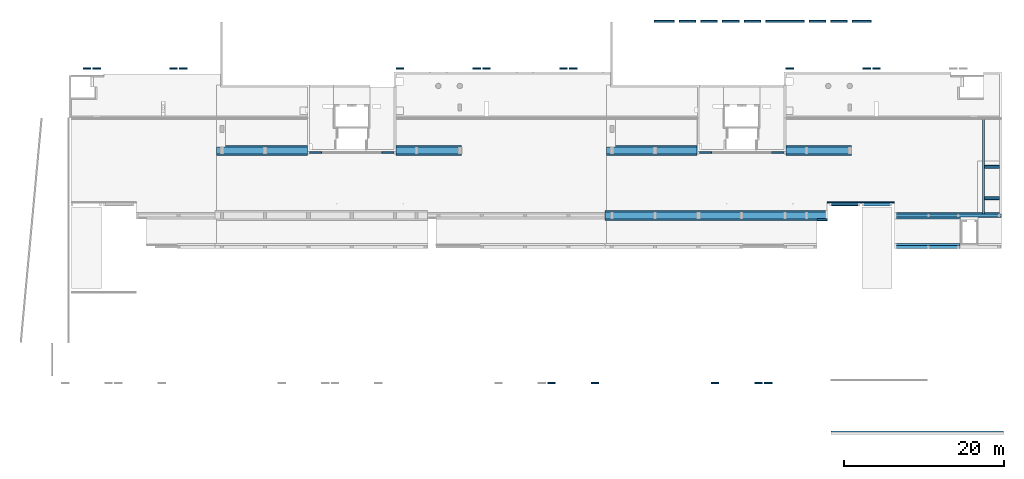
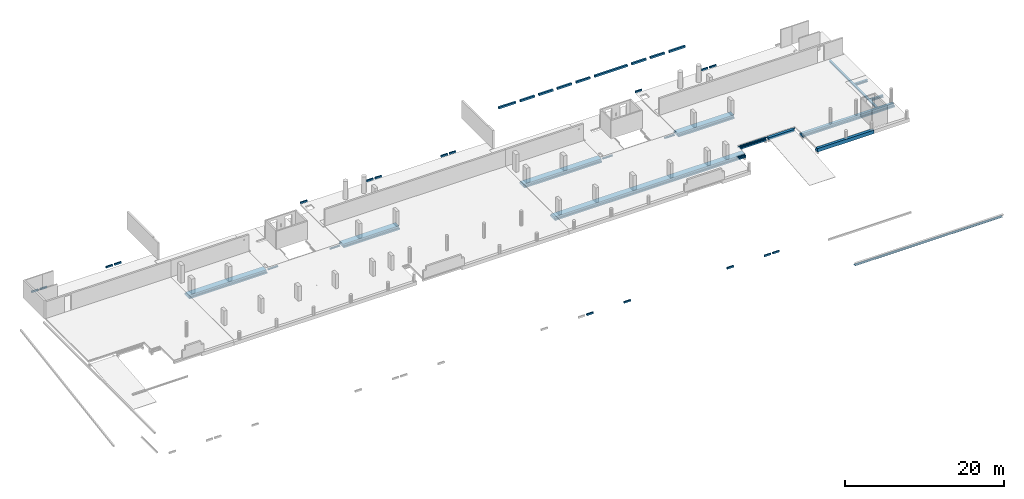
# One storey, part 2 of 10: 39 beams.
"""IFC2X3 building model written with IfcOpenShell, lengths in millimetres."""

from ifc_helpers import new_model, entity, si_unit, converted_unit, derived_unit, direction, frame, frame_2d, origin, origin_2d_with_axis, place, context, subcontext, project, spatial, polyline, circle_curve, parameter, trimmed, segment, composite_curve, rectangle, i_section, outline, extrude, source, transform, mapped, material, type_object, type_shapes, element, save


model = new_model("IFC2X3")

# Units and contexts
model_context = context("Model", 3, precision=0.01, world=origin(), true_north=direction((6.12303176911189e-17, 1.0)))
body_context = subcontext(model_context, "Body", "Model", "MODEL_VIEW")
ifc_project = project(units=[si_unit("LENGTHUNIT", "METRE", prefix="MILLI"), si_unit("AREAUNIT", "SQUARE_METRE"), si_unit("VOLUMEUNIT", "CUBIC_METRE"), converted_unit("PLANEANGLEUNIT", "DEGREE", entity("IfcRatioMeasure", 0.0174532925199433), si_unit("PLANEANGLEUNIT", "RADIAN"), dimensions=[0, 0, 0, 0, 0, 0, 0]), si_unit("MASSUNIT", "GRAM", prefix="KILO"), derived_unit("MASSDENSITYUNIT", [(si_unit("MASSUNIT", "GRAM", prefix="KILO"), 1), (si_unit("LENGTHUNIT", "METRE"), -3)]), si_unit("TIMEUNIT", "SECOND"), si_unit("FREQUENCYUNIT", "HERTZ"), si_unit("THERMODYNAMICTEMPERATUREUNIT", "DEGREE_CELSIUS"), derived_unit("THERMALTRANSMITTANCEUNIT", [(si_unit("MASSUNIT", "GRAM", prefix="KILO"), 1), (si_unit("THERMODYNAMICTEMPERATUREUNIT", "KELVIN"), -1), (si_unit("TIMEUNIT", "SECOND"), -3)]), derived_unit("VOLUMETRICFLOWRATEUNIT", [(si_unit("LENGTHUNIT", "METRE"), 3), (si_unit("TIMEUNIT", "SECOND"), -1)]), si_unit("ELECTRICCURRENTUNIT", "AMPERE"), si_unit("ELECTRICVOLTAGEUNIT", "VOLT"), si_unit("POWERUNIT", "WATT"), si_unit("FORCEUNIT", "NEWTON", prefix="KILO"), si_unit("ILLUMINANCEUNIT", "LUX"), si_unit("LUMINOUSFLUXUNIT", "LUMEN"), si_unit("LUMINOUSINTENSITYUNIT", "CANDELA"), derived_unit("USERDEFINED", [(si_unit("MASSUNIT", "GRAM", prefix="KILO"), -1), (si_unit("LENGTHUNIT", "METRE"), -2), (si_unit("TIMEUNIT", "SECOND"), 3), (si_unit("LUMINOUSFLUXUNIT", "LUMEN"), 1)]), derived_unit("LINEARVELOCITYUNIT", [(si_unit("LENGTHUNIT", "METRE"), 1), (si_unit("TIMEUNIT", "SECOND"), -1)]), si_unit("PRESSUREUNIT", "PASCAL"), derived_unit("USERDEFINED", [(si_unit("LENGTHUNIT", "METRE"), -2), (si_unit("MASSUNIT", "GRAM", prefix="KILO"), 1), (si_unit("TIMEUNIT", "SECOND"), -2)])], contexts=[model_context])

# Site, building, storey
site_placement = place(None, origin())
site = spatial("IfcSite", under=ifc_project, at=site_placement, Name="Default", CompositionType="ELEMENT")
building_placement = place(site_placement, origin())
building = spatial("IfcBuilding", under=site, at=building_placement, Name="niet gebruiken", CompositionType="ELEMENT")
storey_placement = place(building_placement, frame((0.0, 0.0, 6610.0)))
storey = spatial("IfcBuildingStorey", under=building, at=storey_placement, Name="01c derde tussenverdieping", CompositionType="ELEMENT", Elevation=6610.0)

# Beams
ifc_material_1 = material(Name="NLRS_f2_beton prefab")
beam_type_1 = type_object("IfcBeamType", Name="NLRS_28.11_SF_WPB_prefabbeton balk enkele sponning_gen:600x540/200x200", PredefinedType="BEAM")
beam_1_placement = place(storey_placement, frame((110845.0, 25076.0, 10.0)))
element("IfcBeam", 1, at=beam_1_placement, inside=storey, type_object=beam_type_1, material=ifc_material_1, Name="NLRS_28.11_SF_WPB_prefabbeton balk enkele sponning_gen:600x540/200x200", ObjectType="NLRS_28.11_SF_WPB_prefabbeton balk enkele sponning_gen:600x540/200x200", context=body_context, shape_type="SweptSolid", body=[
    extrude(outline(polyline([(-293.333333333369, -333.333333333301), (246.666666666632, -333.333333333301), (246.666666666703, 266.666666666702), (46.6666666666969, 266.666666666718), (46.6666666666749, 66.6666666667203), (-293.333333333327, 66.6666666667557), (-293.333333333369, -333.333333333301)])), frame((0.0, 33.3333333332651, -293.333333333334), z_axis=(1.0, 0.0, 0.0), x_axis=(0.0, 0.0, -1.0)), (0.0, 0.0, 1.0), 8155.0000000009),
])
beam_type_2 = type_object("IfcBeamType", Name="NLRS_28.11_SF_WPB_prefabbeton balk dubbele sponning_gen:800x460/200x260/200x260", PredefinedType="BEAM")
beam_2_placement = place(storey_placement, frame((110845.0, 28881.0, -70.0)))
element("IfcBeam", 2, at=beam_2_placement, inside=storey, type_object=beam_type_2, material=ifc_material_1, Name="NLRS_28.11_SF_WPB_prefabbeton balk dubbele sponning_gen:800x460/200x260/200x260", ObjectType="NLRS_28.11_SF_WPB_prefabbeton balk dubbele sponning_gen:800x460/200x260/200x260", context=body_context, shape_type="SweptSolid", body=[
    extrude(outline(polyline([(15.0, -400.0), (215.0, -400.0), (215.0, 400.0), (15.0, 400.0), (15.0, 200.0), (-245.0, 200.0), (-245.0, -200.0), (15.0, -200.0), (15.0, -400.0)])), frame((0.0, 0.0, -245.0), z_axis=(1.0, 0.0, 0.0), x_axis=(0.0, 0.0, -1.0)), (0.0, 0.0, 1.0), 13354.999999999),
])
beam_type_3 = type_object("IfcBeamType", Name="NLRS_28.11_SF_WPB_prefabbeton balk dubbele sponning_gen:1250x460/200x260/200x260", PredefinedType="BEAM")
beam_3_placement = place(storey_placement, frame((74750.0, 28881.0, -70.0)))
element("IfcBeam", 3, at=beam_3_placement, inside=storey, type_object=beam_type_3, material=ifc_material_1, Name="NLRS_28.11_SF_WPB_prefabbeton balk dubbele sponning_gen:1250x460/200x260/200x260", ObjectType="NLRS_28.11_SF_WPB_prefabbeton balk dubbele sponning_gen:1250x460/200x260/200x260", context=body_context, shape_type="SweptSolid", body=[
    extrude(outline(polyline([(15.0, -625.0), (215.0, -625.0), (215.0, 625.0), (15.0, 625.0), (15.0, 425.0), (-245.0, 425.0), (-245.0, -425.0), (15.0, -425.0), (15.0, -625.0)])), frame((0.0, 0.0, -245.0), z_axis=(1.0, 0.0, 0.0), x_axis=(0.0, 0.0, -1.0)), (0.0, 0.0, 1.0), 27705.0000000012),
])
beam_4_placement = place(storey_placement, frame((97345.0, 36981.0, -70.0)))
element("IfcBeam", 4, at=beam_4_placement, inside=storey, type_object=beam_type_3, material=ifc_material_1, Name="NLRS_28.11_SF_WPB_prefabbeton balk dubbele sponning_gen:1250x460/200x260/200x260", ObjectType="NLRS_28.11_SF_WPB_prefabbeton balk dubbele sponning_gen:1250x460/200x260/200x260", context=body_context, shape_type="SweptSolid", body=[
    extrude(outline(polyline([(15.0, -625.0), (215.0, -625.0), (215.0, 625.0), (15.0, 625.0), (15.0, 425.0), (-245.0, 425.0), (-245.0, -425.0), (15.0, -425.0), (15.0, -625.0)])), frame((0.0, 0.0, -245.0), z_axis=(1.0, 0.0, 0.0), x_axis=(0.0, 0.0, -1.0)), (0.0, 0.0, 1.0), 8155.00000000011),
])
beam_5_placement = place(storey_placement, frame((74970.0, 36981.0, -70.0)))
element("IfcBeam", 5, at=beam_5_placement, inside=storey, type_object=beam_type_3, material=ifc_material_1, Name="NLRS_28.11_SF_WPB_prefabbeton balk dubbele sponning_gen:1250x460/200x260/200x260", ObjectType="NLRS_28.11_SF_WPB_prefabbeton balk dubbele sponning_gen:1250x460/200x260/200x260", context=body_context, shape_type="SweptSolid", body=[
    extrude(outline(polyline([(15.0, -625.0), (215.0, -625.0), (215.0, 625.0), (15.0, 625.0), (15.0, 425.0), (-245.0, 425.0), (-245.0, -425.0), (15.0, -425.0), (15.0, -625.0)])), frame((0.0, 0.0, -245.0), z_axis=(1.0, 0.0, 0.0), x_axis=(0.0, 0.0, -1.0)), (0.0, 0.0, 1.0), 11284.9999999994),
])
beam_6_placement = place(storey_placement, frame((48745.0, 36981.0, -70.0)))
element("IfcBeam", 6, at=beam_6_placement, inside=storey, type_object=beam_type_3, material=ifc_material_1, Name="NLRS_28.11_SF_WPB_prefabbeton balk dubbele sponning_gen:1250x460/200x260/200x260", ObjectType="NLRS_28.11_SF_WPB_prefabbeton balk dubbele sponning_gen:1250x460/200x260/200x260", context=body_context, shape_type="SweptSolid", body=[
    extrude(outline(polyline([(15.0, -625.0), (215.0, -625.0), (215.0, 625.0), (15.0, 625.0), (15.0, 425.0), (-245.0, 425.0), (-245.0, -425.0), (15.0, -425.0), (15.0, -625.0)])), frame((0.0, 0.0, -245.0), z_axis=(1.0, 0.0, 0.0), x_axis=(0.0, 0.0, -1.0)), (0.0, 0.0, 1.0), 8155.0000000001),
])
beam_7_placement = place(storey_placement, frame((26370.0, 36981.0, -70.0)))
element("IfcBeam", 7, at=beam_7_placement, inside=storey, type_object=beam_type_3, material=ifc_material_1, Name="NLRS_28.11_SF_WPB_prefabbeton balk dubbele sponning_gen:1250x460/200x260/200x260", ObjectType="NLRS_28.11_SF_WPB_prefabbeton balk dubbele sponning_gen:1250x460/200x260/200x260", context=body_context, shape_type="SweptSolid", body=[
    extrude(outline(polyline([(15.0, -625.0), (215.0, -625.0), (215.0, 625.0), (15.0, 625.0), (15.0, 425.0), (-245.0, 425.0), (-245.0, -425.0), (15.0, -425.0), (15.0, -625.0)])), frame((0.0, 0.0, -245.0), z_axis=(1.0, 0.0, 0.0), x_axis=(0.0, 0.0, -1.0)), (0.0, 0.0, 1.0), 11284.9999999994),
])
ifc_material_2 = material(Name="NLRS_f2_beton ihwg")
beam_type_4 = type_object("IfcBeamType", Name="250x280", PredefinedType="BEAM", material=ifc_material_2)
shared_shape_1 = source(origin(), body_context, "Body", "SweptSolid", [
    extrude(rectangle(XDim=2489.99999999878, YDim=250.000000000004, at=frame_2d((278.333333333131, 0.0), x_axis=(1.0, 0.0))), frame((81866.6666666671, 53131.0, 6040.0)), (0.0, 0.0, 1.0), 279.999999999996),
    extrude(rectangle(XDim=2370.00000000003, YDim=250.000000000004, at=frame_2d((298.333333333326, -2.20339302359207e-11), x_axis=(1.0, 0.0))), frame((107093.333333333, 53131.0, 6040.0), z_axis=(0.0, 0.0, 1.0), x_axis=(-1.0, 0.0, 0.0)), (0.0, 0.0, 1.0), 279.999999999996),
    extrude(rectangle(XDim=2080.0, YDim=250.000000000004, at=frame_2d((-1.72803993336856e-11, 4.33431068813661e-12), x_axis=(1.0, 0.0))), frame((101250.0, 53131.0, 6040.0), z_axis=(0.0, 0.0, 1.0), x_axis=(-1.0, 0.0, 0.0)), (0.0, 0.0, 1.0), 279.999999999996),
    extrude(rectangle(XDim=2080.00000000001, YDim=250.000000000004, at=origin_2d_with_axis()), frame((103950.0, 53131.0, 6040.0)), (0.0, 0.0, 1.0), 279.999999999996),
    extrude(rectangle(XDim=4779.99999999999, YDim=249.999999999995, at=frame_2d((1.05683284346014e-09, -1.29887212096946e-11), x_axis=(1.0, 0.0))), frame((97200.0, 53131.0, 6040.0), z_axis=(0.0, 0.0, 1.0), x_axis=(-1.0, 0.0, 0.0)), (0.0, 0.0, 1.0), 279.999999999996),
    extrude(rectangle(XDim=2080.00000000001, YDim=250.000000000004, at=frame_2d((0.0, -4.33431068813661e-12), x_axis=(1.0, 0.0))), frame((93150.0, 53131.0, 6040.0), z_axis=(0.0, 0.0, 1.0), x_axis=(-1.0, 0.0, 0.0)), (0.0, 0.0, 1.0), 279.999999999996),
    extrude(rectangle(XDim=2079.99999999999, YDim=249.999999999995, at=frame_2d((8.75388650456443e-12, 8.66862137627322e-12), x_axis=(1.0, 0.0))), frame((90450.0, 53131.0, 6040.0), z_axis=(0.0, 0.0, 1.0), x_axis=(-1.0, 0.0, 0.0)), (0.0, 0.0, 1.0), 279.999999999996),
    extrude(rectangle(XDim=2080.00000000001, YDim=249.999999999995, at=frame_2d((0.0, 8.66862137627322e-12), x_axis=(1.0, 0.0))), frame((87750.0, 53131.0, 6040.0), z_axis=(0.0, 0.0, 1.0), x_axis=(-1.0, 0.0, 0.0)), (0.0, 0.0, 1.0), 279.999999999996),
    extrude(rectangle(XDim=2080.0, YDim=250.000000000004, at=frame_2d((-8.64019966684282e-12, 4.33431068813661e-12), x_axis=(1.0, 0.0))), frame((85050.0, 53131.0, 6040.0), z_axis=(0.0, 0.0, 1.0), x_axis=(-1.0, 0.0, 0.0)), (0.0, 0.0, 1.0), 279.999999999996),
])
type_shapes(beam_type_4, [shared_shape_1])
beam_8_placement = place(storey_placement, frame((0.0, 0.0, -6610.0)))
element("IfcBeam", 8, at=beam_8_placement, inside=storey, type_object=beam_type_4, material=ifc_material_2, Name="NLRS_28.11_SF_WPB_betonbalk ihwg recht_gen:250x280", ObjectType="250x280", context=body_context, shape_type="MappedRepresentation", body=[
    mapped(shared_shape_1, transform((0.0, 0.0, 0.0), scale=1.0)),
])
ifc_material_3 = material(Name="NLRS_h2_staal")
beam_type_5 = type_object("IfcBeamType", Name="NLRS_28.11_SF_WPB_stalen ligger hoekprofiel gelijkzijdig_gen:ligger gelijzijdig hoekprofiel LEQU_200x200x15", PredefinedType="BEAM")
beam_9_placement = place(storey_placement, frame((46945.0, 36756.0, -245.0)))
element("IfcBeam", 9, at=beam_9_placement, inside=storey, type_object=beam_type_5, material=ifc_material_3, Name="NLRS_28.11_SF_WPB_stalen ligger hoekprofiel gelijkzijdig_gen:ligger gelijzijdig hoekprofiel LEQU_200x200x15", ObjectType="NLRS_28.11_SF_WPB_stalen ligger hoekprofiel gelijkzijdig_gen:ligger gelijzijdig hoekprofiel LEQU_200x200x15", context=body_context, shape_type="SweptSolid", body=[
    extrude(outline(composite_curve([segment(polyline([(66.3333333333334, -126.666666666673), (73.333333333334, -126.666666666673)]), True, "CONTINUOUS"), segment(polyline([(73.333333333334, -126.666666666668), (73.333333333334, 73.3333333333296)]), True, "CONTINUOUS"), segment(polyline([(73.333333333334, 73.3333333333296), (-126.666666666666, 73.3333333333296)]), True, "CONTINUOUS"), segment(polyline([(-126.666666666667, 73.3333333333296), (-126.666666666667, 66.3333333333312)]), True, "CONTINUOUS"), segment(trimmed(circle_curve(frame_2d((-118.666666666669, 66.3333333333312), x_axis=(-1.0, 0.0)), 7.99999999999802), [parameter(0.0)], [parameter(90.0000000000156)], True, "PARAMETER"), True, "CONTINUOUS"), segment(polyline([(-118.666666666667, 58.3333333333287), (42.3333333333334, 58.3333333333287)]), True, "CONTINUOUS"), segment(trimmed(circle_curve(frame_2d((42.3333333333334, 42.333333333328), x_axis=(0.0, 1.0)), 16.0000000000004), [parameter(270.0)], [parameter(0.0)], True, "PARAMETER"), False, "CONTINUOUS"), segment(polyline([(58.3333333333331, 42.333333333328), (58.3333333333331, -118.66666666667)]), True, "CONTINUOUS"), segment(trimmed(circle_curve(frame_2d((66.3333333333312, -118.66666666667), x_axis=(-1.0, 0.0)), 7.99999999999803), [parameter(0.0)], [parameter(90.0000000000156)], True, "PARAMETER"), True, "CONTINUOUS")], self_intersect=False)), frame((0.0, 26.6666666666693, -26.6666666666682), z_axis=(1.0, 0.0, 0.0), x_axis=(0.0, 0.0, -1.0)), (0.0, 0.0, 1.0), 1510.00000000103),
])
beam_10_placement = place(storey_placement, frame((37945.0, 36756.0, -245.0)))
element("IfcBeam", 10, at=beam_10_placement, inside=storey, type_object=beam_type_5, material=ifc_material_3, Name="NLRS_28.11_SF_WPB_stalen ligger hoekprofiel gelijkzijdig_gen:ligger gelijzijdig hoekprofiel LEQU_200x200x15", ObjectType="NLRS_28.11_SF_WPB_stalen ligger hoekprofiel gelijkzijdig_gen:ligger gelijzijdig hoekprofiel LEQU_200x200x15", context=body_context, shape_type="SweptSolid", body=[
    extrude(outline(composite_curve([segment(polyline([(66.3333333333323, -126.666666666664), (73.3333333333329, -126.666666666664)]), True, "CONTINUOUS"), segment(polyline([(73.3333333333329, -126.66666666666), (73.3333333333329, 73.3333333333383)]), True, "CONTINUOUS"), segment(polyline([(73.3333333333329, 73.3333333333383), (-126.666666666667, 73.3333333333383)]), True, "CONTINUOUS"), segment(polyline([(-126.666666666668, 73.3333333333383), (-126.666666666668, 66.3333333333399)]), True, "CONTINUOUS"), segment(trimmed(circle_curve(frame_2d((-118.66666666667, 66.3333333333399), x_axis=(-1.0, 0.0)), 7.99999999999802), [parameter(0.0)], [parameter(90.0000000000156)], True, "PARAMETER"), True, "CONTINUOUS"), segment(polyline([(-118.666666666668, 58.3333333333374), (42.3333333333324, 58.3333333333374)]), True, "CONTINUOUS"), segment(trimmed(circle_curve(frame_2d((42.3333333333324, 42.3333333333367), x_axis=(0.0, 1.0)), 16.0000000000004), [parameter(270.0)], [parameter(0.0)], True, "PARAMETER"), False, "CONTINUOUS"), segment(polyline([(58.333333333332, 42.3333333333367), (58.333333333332, -118.666666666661)]), True, "CONTINUOUS"), segment(trimmed(circle_curve(frame_2d((66.3333333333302, -118.666666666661), x_axis=(-1.0, 0.0)), 7.99999999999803), [parameter(0.0)], [parameter(90.0000000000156)], True, "PARAMETER"), True, "CONTINUOUS")], self_intersect=False)), frame((0.0, 26.6666666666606, -26.6666666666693), z_axis=(1.0, 0.0, 0.0), x_axis=(0.0, 0.0, -1.0)), (0.0, 0.0, 1.0), 1510.01813337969),
])
beam_11_placement = place(storey_placement, frame((95545.0, 36756.0, -245.0)))
element("IfcBeam", 11, at=beam_11_placement, inside=storey, type_object=beam_type_5, material=ifc_material_3, Name="NLRS_28.11_SF_WPB_stalen ligger hoekprofiel gelijkzijdig_gen:ligger gelijzijdig hoekprofiel LEQU_200x200x15", ObjectType="NLRS_28.11_SF_WPB_stalen ligger hoekprofiel gelijkzijdig_gen:ligger gelijzijdig hoekprofiel LEQU_200x200x15", context=body_context, shape_type="SweptSolid", body=[
    extrude(outline(composite_curve([segment(polyline([(66.3333333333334, -126.666666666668), (73.333333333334, -126.666666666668)]), True, "CONTINUOUS"), segment(polyline([(73.333333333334, -126.666666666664), (73.333333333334, 73.333333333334)]), True, "CONTINUOUS"), segment(polyline([(73.333333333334, 73.333333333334), (-126.666666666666, 73.333333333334)]), True, "CONTINUOUS"), segment(polyline([(-126.666666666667, 73.333333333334), (-126.666666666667, 66.3333333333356)]), True, "CONTINUOUS"), segment(trimmed(circle_curve(frame_2d((-118.666666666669, 66.3333333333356), x_axis=(-1.0, 0.0)), 7.99999999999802), [parameter(0.0)], [parameter(90.0000000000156)], True, "PARAMETER"), True, "CONTINUOUS"), segment(polyline([(-118.666666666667, 58.3333333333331), (42.3333333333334, 58.3333333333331)]), True, "CONTINUOUS"), segment(trimmed(circle_curve(frame_2d((42.3333333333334, 42.3333333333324), x_axis=(0.0, 1.0)), 16.0000000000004), [parameter(270.0)], [parameter(0.0)], True, "PARAMETER"), False, "CONTINUOUS"), segment(polyline([(58.3333333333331, 42.3333333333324), (58.3333333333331, -118.666666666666)]), True, "CONTINUOUS"), segment(trimmed(circle_curve(frame_2d((66.3333333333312, -118.666666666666), x_axis=(-1.0, 0.0)), 7.99999999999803), [parameter(0.0)], [parameter(90.0000000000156)], True, "PARAMETER"), True, "CONTINUOUS")], self_intersect=False)), frame((0.0, 26.6666666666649, -26.6666666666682), z_axis=(1.0, 0.0, 0.0), x_axis=(0.0, 0.0, -1.0)), (0.0, 0.0, 1.0), 1510.00000000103),
])
beam_12_placement = place(storey_placement, frame((86545.0, 36756.0, -245.0)))
element("IfcBeam", 12, at=beam_12_placement, inside=storey, type_object=beam_type_5, material=ifc_material_3, Name="NLRS_28.11_SF_WPB_stalen ligger hoekprofiel gelijkzijdig_gen:ligger gelijzijdig hoekprofiel LEQU_200x200x15", ObjectType="NLRS_28.11_SF_WPB_stalen ligger hoekprofiel gelijkzijdig_gen:ligger gelijzijdig hoekprofiel LEQU_200x200x15", context=body_context, shape_type="SweptSolid", body=[
    extrude(outline(composite_curve([segment(polyline([(66.3333333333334, -126.66666666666), (73.333333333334, -126.66666666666)]), True, "CONTINUOUS"), segment(polyline([(73.333333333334, -126.666666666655), (73.333333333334, 73.3333333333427)]), True, "CONTINUOUS"), segment(polyline([(73.333333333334, 73.3333333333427), (-126.666666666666, 73.3333333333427)]), True, "CONTINUOUS"), segment(polyline([(-126.666666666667, 73.3333333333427), (-126.666666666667, 66.3333333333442)]), True, "CONTINUOUS"), segment(trimmed(circle_curve(frame_2d((-118.666666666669, 66.3333333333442), x_axis=(-1.0, 0.0)), 7.99999999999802), [parameter(0.0)], [parameter(90.0000000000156)], True, "PARAMETER"), True, "CONTINUOUS"), segment(polyline([(-118.666666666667, 58.3333333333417), (42.3333333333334, 58.3333333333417)]), True, "CONTINUOUS"), segment(trimmed(circle_curve(frame_2d((42.3333333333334, 42.333333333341), x_axis=(0.0, 1.0)), 16.0000000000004), [parameter(270.0)], [parameter(0.0)], True, "PARAMETER"), False, "CONTINUOUS"), segment(polyline([(58.3333333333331, 42.333333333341), (58.3333333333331, -118.666666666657)]), True, "CONTINUOUS"), segment(trimmed(circle_curve(frame_2d((66.3333333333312, -118.666666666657), x_axis=(-1.0, 0.0)), 7.99999999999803), [parameter(0.0)], [parameter(90.0000000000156)], True, "PARAMETER"), True, "CONTINUOUS")], self_intersect=False)), frame((0.0, 26.6666666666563, -26.6666666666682), z_axis=(1.0, 0.0, 0.0), x_axis=(0.0, 0.0, -1.0)), (0.0, 0.0, 1.0), 1510.0181333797),
])
beam_13_placement = place(storey_placement, frame((102475.0, 30626.0, -252.500000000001)))
element("IfcBeam", 13, at=beam_13_placement, inside=storey, type_object=beam_type_5, material=ifc_material_3, Name="NLRS_28.11_SF_WPB_stalen ligger hoekprofiel gelijkzijdig_gen:ligger gelijzijdig hoekprofiel LEQU_200x200x15", ObjectType="NLRS_28.11_SF_WPB_stalen ligger hoekprofiel gelijkzijdig_gen:ligger gelijzijdig hoekprofiel LEQU_200x200x15", context=body_context, shape_type="SweptSolid", body=[
    extrude(outline(composite_curve([segment(polyline([(-126.666666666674, -73.3333333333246), (73.333333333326, -73.3333333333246)]), True, "CONTINUOUS"), segment(polyline([(73.333333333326, -73.3333333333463), (73.3333333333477, 126.666666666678)]), True, "CONTINUOUS"), segment(polyline([(73.3333333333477, 126.666666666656), (66.3333333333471, 126.666666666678)]), True, "CONTINUOUS"), segment(trimmed(circle_curve(frame_2d((66.3333333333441, 118.666666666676), x_axis=(0.0, 1.0)), 7.99999999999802), [parameter(0.0)], [parameter(90.0000000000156)], True, "PARAMETER"), True, "CONTINUOUS"), segment(polyline([(58.3333333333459, 118.666666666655), (58.3333333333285, -42.3333333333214)]), True, "CONTINUOUS"), segment(trimmed(circle_curve(frame_2d((42.3333333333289, -42.3333333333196), x_axis=(1.0, 0.0)), 16.0000000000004), [parameter(270.0)], [parameter(0.0)], True, "PARAMETER"), False, "CONTINUOUS"), segment(polyline([(42.3333333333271, -58.333333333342), (-118.666666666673, -58.3333333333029)]), True, "CONTINUOUS"), segment(trimmed(circle_curve(frame_2d((-118.666666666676, -66.3333333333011), x_axis=(0.0, 1.0)), 7.99999999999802), [parameter(0.0)], [parameter(90.0000000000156)], True, "PARAMETER"), True, "CONTINUOUS"), segment(polyline([(-126.666666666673, -66.3333333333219), (-126.666666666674, -73.3333333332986)]), True, "CONTINUOUS")], self_intersect=False)), frame((0.0, -126.666666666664, -19.1666666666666), z_axis=(1.0, 0.0, 0.0), x_axis=(0.0, 0.0, -1.0)), (0.0, 0.0, 1.0), 8349.99999999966),
])
beam_type_6 = type_object("IfcBeamType", Name="NLRS_28.11_SF_WPB_betonbalk ihwg recht_gen:180x250", PredefinedType="BEAM")
for number, where, name in (
    (14, (59525.0, 47236.0, -40.0), "NLRS_28.11_SF_WPB_betonbalk ihwg recht_gen:180x250"),
    (15, (58305.0, 47236.0, -40.0), "NLRS_28.11_SF_WPB_betonbalk ihwg recht_gen:180x250"),
    (16, (48725.0, 47236.0, -40.0), "NLRS_28.11_SF_WPB_betonbalk ihwg recht_gen:180x250"),
):
    element("IfcBeam", number, at=place(storey_placement, frame(where)), inside=storey, type_object=beam_type_6, material=ifc_material_2, Name=name, ObjectType="NLRS_28.11_SF_WPB_betonbalk ihwg recht_gen:180x250", context=body_context, shape_type="SweptSolid", body=[
        extrude(rectangle(XDim=249.999999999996, YDim=180.000000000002, at=frame_2d((-5.40012479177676e-13, -4.33431068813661e-12), x_axis=(1.0, 0.0))), frame((0.0, 0.0, -125.0), z_axis=(1.0, 0.0, 0.0), x_axis=(0.0, 0.0, -1.0)), (0.0, 0.0, 1.0), 970.000000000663),
    ])
for number, where, name in (
    (17, (21725.0, 47236.0, -40.0), "NLRS_28.11_SF_WPB_betonbalk ihwg recht_gen:180x250"),
    (18, (20505.0, 47236.0, -40.0), "NLRS_28.11_SF_WPB_betonbalk ihwg recht_gen:180x250"),
    (19, (9705.0, 47236.0, -40.0), "NLRS_28.11_SF_WPB_betonbalk ihwg recht_gen:180x250"),
):
    element("IfcBeam", number, at=place(storey_placement, frame(where)), inside=storey, type_object=beam_type_6, material=ifc_material_2, Name=name, ObjectType="NLRS_28.11_SF_WPB_betonbalk ihwg recht_gen:180x250", context=body_context, shape_type="SweptSolid", body=[
        extrude(rectangle(XDim=249.999999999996, YDim=180.000000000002, at=frame_2d((-5.40012479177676e-13, -4.33431068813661e-12), x_axis=(1.0, 0.0))), frame((0.0, 0.0, -125.0), z_axis=(1.0, 0.0, 0.0), x_axis=(0.0, 0.0, -1.0)), (0.0, 0.0, 1.0), 970.000000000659),
    ])
for number, where, name in (
    (20, (69105.0, 47236.0, -40.0), "NLRS_28.11_SF_WPB_betonbalk ihwg recht_gen:180x250"),
    (21, (70325.0, 47236.0, -40.0), "NLRS_28.11_SF_WPB_betonbalk ihwg recht_gen:180x250"),
    (22, (97325.0, 47236.0, -40.0), "NLRS_28.11_SF_WPB_betonbalk ihwg recht_gen:180x250"),
    (23, (106905.0, 47236.0, -40.0), "NLRS_28.11_SF_WPB_betonbalk ihwg recht_gen:180x250"),
    (24, (108125.0, 47236.0, -40.0), "NLRS_28.11_SF_WPB_betonbalk ihwg recht_gen:180x250"),
):
    element("IfcBeam", number, at=place(storey_placement, frame(where)), inside=storey, type_object=beam_type_6, material=ifc_material_2, Name=name, ObjectType="NLRS_28.11_SF_WPB_betonbalk ihwg recht_gen:180x250", context=body_context, shape_type="SweptSolid", body=[
        extrude(rectangle(XDim=249.999999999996, YDim=180.000000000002, at=frame_2d((-5.40012479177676e-13, -4.33431068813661e-12), x_axis=(1.0, 0.0))), frame((0.0, 0.0, -125.0), z_axis=(1.0, 0.0, 0.0), x_axis=(0.0, 0.0, -1.0)), (0.0, 0.0, 1.0), 970.000000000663),
    ])
for number, where, name in (
    (25, (67625.0, 8006.0, -40.0), "NLRS_28.11_SF_WPB_betonbalk ihwg recht_gen:180x250"),
    (26, (73025.0, 8006.0, -40.0), "NLRS_28.11_SF_WPB_betonbalk ihwg recht_gen:180x250"),
    (27, (88005.0, 8006.0, -40.0), "NLRS_28.11_SF_WPB_betonbalk ihwg recht_gen:180x250"),
    (28, (93405.0, 8006.0, -40.0), "NLRS_28.11_SF_WPB_betonbalk ihwg recht_gen:180x250"),
    (29, (94625.0, 8006.0, -40.0), "NLRS_28.11_SF_WPB_betonbalk ihwg recht_gen:180x250"),
):
    element("IfcBeam", number, at=place(storey_placement, frame(where)), inside=storey, type_object=beam_type_6, material=ifc_material_2, Name=name, ObjectType="NLRS_28.11_SF_WPB_betonbalk ihwg recht_gen:180x250", context=body_context, shape_type="SweptSolid", body=[
        extrude(rectangle(XDim=249.999999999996, YDim=180.0, at=frame_2d((-5.40012479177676e-13, 0.0), x_axis=(1.0, 0.0))), frame((0.0, 0.0, -125.0), z_axis=(1.0, 0.0, 0.0), x_axis=(0.0, 0.0, -1.0)), (0.0, 0.0, 1.0), 970.000000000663),
    ])
beam_14_placement = place(storey_placement, frame((11895.0, 47236.0, -40.0), z_axis=(0.0, 0.0, 1.0), x_axis=(-1.0, 0.0, 0.0)))
element("IfcBeam", 30, at=beam_14_placement, inside=storey, type_object=beam_type_6, material=ifc_material_2, Name="NLRS_28.11_SF_WPB_betonbalk ihwg recht_gen:180x250", ObjectType="NLRS_28.11_SF_WPB_betonbalk ihwg recht_gen:180x250", context=body_context, shape_type="SweptSolid", body=[
    extrude(rectangle(XDim=249.999999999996, YDim=180.000000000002, at=frame_2d((-5.40012479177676e-13, -4.33431068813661e-12), x_axis=(1.0, 0.0))), frame((0.0, 0.0, -125.0), z_axis=(1.0, 0.0, 0.0), x_axis=(0.0, 0.0, -1.0)), (0.0, 0.0, 1.0), 970.000000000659),
])
beam_type_7 = type_object("IfcBeamType", Name="NLRS_28.11_SF_WPB_prefabbeton balk recht_gen:380x350", PredefinedType="BEAM")
beam_15_placement = place(storey_placement, frame((110555.0, 30236.0, -100.0), z_axis=(0.0, 0.0, 1.0), x_axis=(-1.0, 0.0, 0.0)))
element("IfcBeam", 31, at=beam_15_placement, inside=storey, type_object=beam_type_7, material=ifc_material_1, Name="NLRS_28.11_SF_WPB_prefabbeton balk recht_gen:380x350", ObjectType="NLRS_28.11_SF_WPB_prefabbeton balk recht_gen:380x350", context=body_context, shape_type="SweptSolid", body=[
    extrude(rectangle(XDim=349.999999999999, YDim=380.0, at=frame_2d((-5.40012479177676e-13, -8.65441052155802e-12), x_axis=(1.0, 0.0))), frame((0.0, 0.0, -175.0), z_axis=(1.0, 0.0, 0.0), x_axis=(0.0, 0.0, -1.0)), (0.0, 0.0, 1.0), 3759.99999999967),
])
beam_type_8 = type_object("IfcBeamType", Name="NLRS_28.11_SF_WPB_prefabbeton balk recht_gen:200x140", PredefinedType="BEAM")
beam_16_placement = place(storey_placement, frame((101225.1, 28356.0, -190.0)))
element("IfcBeam", 32, at=beam_16_placement, inside=storey, type_object=beam_type_8, material=ifc_material_1, Name="NLRS_28.11_SF_WPB_prefabbeton balk recht_gen:200x140", ObjectType="NLRS_28.11_SF_WPB_prefabbeton balk recht_gen:200x140", context=body_context, shape_type="SweptSolid", body=[
    extrude(rectangle(XDim=140.000000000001, YDim=199.999999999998, at=frame_2d((5.40012479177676e-13, 4.33431068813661e-12), x_axis=(1.0, 0.0))), frame((0.0, 0.0, -70.0), z_axis=(1.0, 0.0, 0.0), x_axis=(0.0, 0.0, -1.0)), (0.0, 0.0, 1.0), 1229.90000000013),
])
beam_type_9 = type_object("IfcBeamType", Name="NLRS_28.11_SF_WPB_prefabbeton balk enkele sponning_gen:380x370/180x150", PredefinedType="BEAM")
beam_17_placement = place(storey_placement, frame((106505.0, 30236.0, -80.0), z_axis=(0.0, 0.0, 1.0), x_axis=(-1.0, 0.0, 0.0)))
element("IfcBeam", 33, at=beam_17_placement, inside=storey, type_object=beam_type_9, material=ifc_material_1, Name="NLRS_28.11_SF_WPB_prefabbeton balk enkele sponning_gen:380x370/180x150", ObjectType="NLRS_28.11_SF_WPB_prefabbeton balk enkele sponning_gen:380x370/180x150", context=body_context, shape_type="SweptSolid", body=[
    extrude(outline(polyline([(-173.33333333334, -193.333333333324), (196.666666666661, -193.333333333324), (196.666666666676, 186.666666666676), (-23.3333333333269, 186.666666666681), (-23.3333333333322, 6.66666666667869), (-173.333333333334, 6.6666666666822), (-173.33333333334, -193.333333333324)])), frame((0.0, 3.33333333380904, -173.333333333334), z_axis=(1.0, 0.0, 0.0), x_axis=(0.0, 0.0, -1.0)), (0.0, 0.0, 1.0), 3760.00000000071),
])
beam_type_10 = type_object("IfcBeamType", Name="NLRS_28.11_SF_WPB_stalen ligger HEA_gen:ligger HEA 260", PredefinedType="BEAM")
beam_18_placement = place(storey_placement, frame((121970.014648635, 41041.0, -80.0), z_axis=(0.0, 0.0, 1.0), x_axis=(0.0, -1.0, 0.0)))
element("IfcBeam", 34, at=beam_18_placement, inside=storey, type_object=beam_type_10, material=ifc_material_3, Name="NLRS_28.11_SF_WPB_stalen ligger HEA_gen:ligger HEA 260", ObjectType="NLRS_28.11_SF_WPB_stalen ligger HEA_gen:ligger HEA 260", context=body_context, shape_type="SweptSolid", body=[
    extrude(i_section(OverallWidth=260.00000000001, OverallDepth=250.000000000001, WebThickness=7.49999999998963, FlangeThickness=12.4999999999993, FilletRadius=23.9999999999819, at=frame_2d((-1.62714286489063e-12, 0.0), x_axis=(0.0, 1.0))), frame((0.0, 0.0, -125.0), z_axis=(1.0, 0.0, 0.0), x_axis=(0.0, 0.0, -1.0)), (0.0, 0.0, 1.0), 11939.9999999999),
])
for number, where, name in (
    (35, (122100.014648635, 34955.0, -80.0), "NLRS_28.11_SF_WPB_stalen ligger HEA_gen:ligger HEA 260"),
    (36, (122100.014648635, 31045.0, -80.0), "NLRS_28.11_SF_WPB_stalen ligger HEA_gen:ligger HEA 260"),
):
    element("IfcBeam", number, at=place(storey_placement, frame(where)), inside=storey, type_object=beam_type_10, material=ifc_material_3, Name=name, ObjectType="NLRS_28.11_SF_WPB_stalen ligger HEA_gen:ligger HEA 260", context=body_context, shape_type="SweptSolid", body=[
        extrude(i_section(OverallWidth=260.000000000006, OverallDepth=250.000000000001, WebThickness=7.49999999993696, FlangeThickness=12.4999999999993, FilletRadius=23.9999999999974, at=frame_2d((-1.62003743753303e-12, 4.32009983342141e-12), x_axis=(0.0, 1.0))), frame((0.0, 0.0, -125.0), z_axis=(1.0, 0.0, 0.0), x_axis=(0.0, 0.0, -1.0)), (0.0, 0.0, 1.0), 1839.98535136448),
    ])
beam_type_11 = type_object("IfcBeamType", Name="ligger stripstaal RECT_460x10", PredefinedType="BEAM", material=ifc_material_3)
shared_shape_2 = source(origin(), body_context, "Body", "SweptSolid", [
    extrude(rectangle(XDim=1839.98535136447, YDim=460.0, at=origin_2d_with_axis()), frame((0.0, 0.0, -5.0), z_axis=(0.0, 0.0, 1.0), x_axis=(-1.0, 0.0, 0.0)), (0.0, 0.0, 1.0), 9.99999999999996),
    extrude(rectangle(XDim=1839.98535136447, YDim=460.0, at=origin_2d_with_axis()), frame((0.0, 0.0, -5.0), z_axis=(0.0, 0.0, 1.0), x_axis=(-1.0, 0.0, 0.0)), (0.0, 0.0, 1.0), 9.99999999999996),
])
type_shapes(beam_type_11, [shared_shape_2])
for number, where, name in (
    (37, (123020.007324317, 34955.0, -335.0), "NLRS_28.11_SF_WPB_stalen ligger stripstaal_gen:ligger stripstaal RECT_460x10"),
    (38, (123020.007324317, 31045.0, -335.0), "NLRS_28.11_SF_WPB_stalen ligger stripstaal_gen:ligger stripstaal RECT_460x10"),
):
    element("IfcBeam", number, at=place(storey_placement, frame(where)), inside=storey, type_object=beam_type_11, material=ifc_material_3, Name=name, ObjectType="ligger stripstaal RECT_460x10", context=body_context, shape_type="MappedRepresentation", body=[
        mapped(shared_shape_2, transform((0.0, 0.0, 0.0), scale=1.0)),
    ])
beam_type_12 = type_object("IfcBeamType", Name="ligger stripstaal RECT_450x15", PredefinedType="BEAM", material=ifc_material_3)
shared_shape_3 = source(origin(), body_context, "Body", "SweptSolid", [
    extrude(outline(polyline([(-14314.9999693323, -286.666666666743), (7059.99993866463, -286.666666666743), (7059.99993866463, 123.333333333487), (7255.00003066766, 123.333333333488), (7255.00003066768, 163.333333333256), (-14314.9999693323, 163.333333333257), (-14314.9999693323, -286.666666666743)])), frame((117250.0, 1846.6666666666, 5475.0)), (0.0, 0.0, 1.0), 14.9999999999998),
    extrude(outline(polyline([(-14314.9999693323, -286.666666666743), (7059.99993866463, -286.666666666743), (7059.99993866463, 123.333333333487), (7255.00003066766, 123.333333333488), (7255.00003066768, 163.333333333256), (-14314.9999693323, 163.333333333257), (-14314.9999693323, -286.666666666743)])), frame((117250.0, 1846.6666666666, 5475.0)), (0.0, 0.0, 1.0), 14.9999999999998),
])
type_shapes(beam_type_12, [shared_shape_3])
beam_19_placement = place(storey_placement, frame((0.0, 0.0, -6610.0)))
element("IfcBeam", 39, at=beam_19_placement, inside=storey, type_object=beam_type_12, material=ifc_material_3, Name="NLRS_28.11_SF_WPB_stalen ligger stripstaal_gen:ligger stripstaal RECT_450x15", ObjectType="ligger stripstaal RECT_450x15", context=body_context, shape_type="MappedRepresentation", body=[
    mapped(shared_shape_3, transform((0.0, 0.0, 0.0), scale=1.0)),
])

save(model, "model.ifc")
